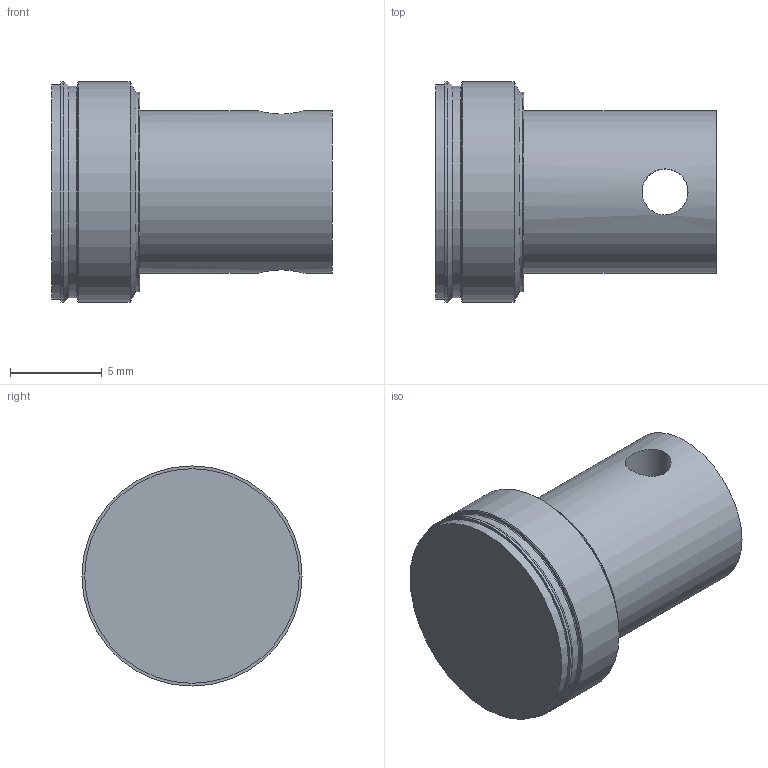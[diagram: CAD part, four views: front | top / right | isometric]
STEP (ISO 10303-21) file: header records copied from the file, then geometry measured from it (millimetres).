
FILE_DESCRIPTION(/* description */ ('QRVF120XXXXS'),/* implementation_level */ '2;1');
FILE_NAME(/* name */ '\\ABSOLUTE\SmWork\Vernon\QRVF120XXXXS.stp',/* time_stamp */ '2026-04-06T15:22:39-04:00',/* author */ ('VernonJ'),/* organization */ (''),/* preprocessor_version */ 'ST-DEVELOPER v18.1',/* originating_system */ 'Autodesk Inventor 2020',/* authorisation */ '');
FILE_SCHEMA (('AUTOMOTIVE_DESIGN { 1 0 10303 214 3 1 1 }'));
Length unit declared in the file: millimetre
Products named in the file (1): QRVF120XXXXS
Bounding box: 15.3 x 11.99 x 11.99 mm (x, y, z)
Volume: 1129.2 mm3; surface area: 754.5 mm2
Topology: 1 solids, 1 shells, 17 faces, 49 edges, 37 vertices
Faces by surface type: cylinder 7, plane 5, torus 3, cone 2
Full cylindrical faces by diameter (mm): 2.5 x1, 8.85 x1, 10.86 x1, 11.53 x1, 11.69 x1, 11.99 x2
Entity records: 708 total; most frequent: CARTESIAN_POINT 172, DIRECTION 117, ORIENTED_EDGE 98, AXIS2_PLACEMENT_3D 54, EDGE_CURVE 49, VERTEX_POINT 37, CIRCLE 36, EDGE_LOOP 22
